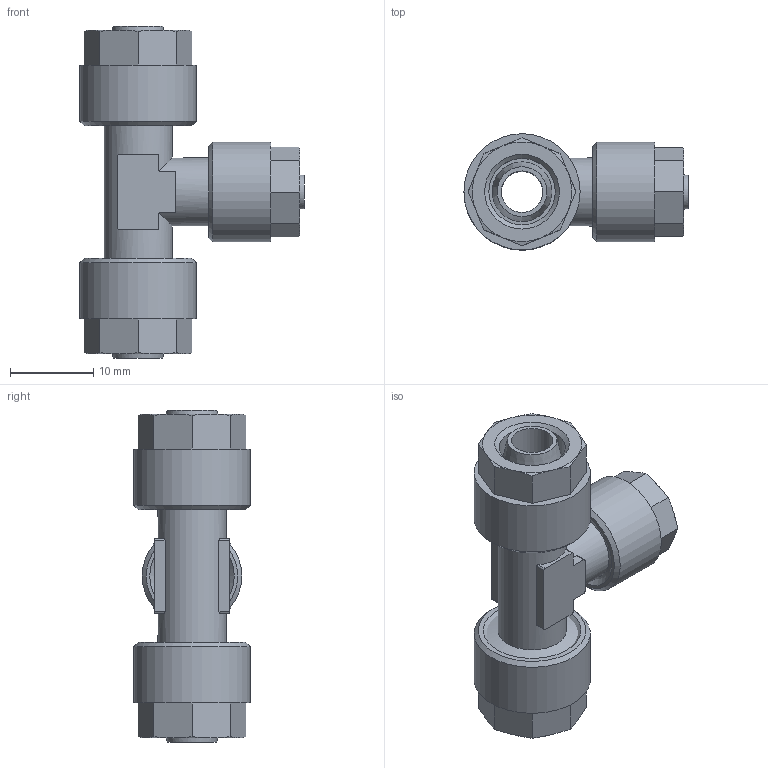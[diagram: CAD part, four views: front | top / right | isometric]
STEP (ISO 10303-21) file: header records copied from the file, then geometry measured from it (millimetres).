
FILE_DESCRIPTION(/* description */ (''),/* implementation_level */ '2;1');
FILE_NAME(/* name */ '12304_309_86_64_14.08.17',/* time_stamp */ '2017-08-14T14:42:24+02:00',/* author */ (''),/* organization */ (''),/* preprocessor_version */ 'ST-DEVELOPER v16.5',/* originating_system */ 'HiCAD 2016 2102.2 Build 618',/* authorisation */ '');
FILE_SCHEMA (('AUTOMOTIVE_DESIGN { 1 0 10303 214 1 1 1 1 }'));
Length unit declared in the file: millimetre
Products named in the file (5): Root; R12304; 17006; 17005
Assembly tree (4 placements, depth 2):
  Root
    R12304
    17006
    17006
    17005
Bounding box: 27 x 14 x 40 mm (x, y, z)
Volume: 4501 mm3; surface area: 5393.3 mm2
Topology: 4 solids, 4 shells, 143 faces, 347 edges, 223 vertices
Faces by surface type: plane 60, cone 45, cylinder 35, torus 3
Full cylindrical faces by diameter (mm): 3.2 x1, 4.8 x1, 5 x1, 6 x1, 6.8 x2, 8 x2, 8.2 x2, 8.773 x1, 10 x1, 10.773 x2, 12 x3, 14 x2
Entity records: 10144 total; most frequent: CARTESIAN_POINT 4130, DIRECTION 714, PRESENTATION_STYLE_ASSIGNMENT 564, COLOUR_RGB 561, DRAUGHTING_PRE_DEFINED_CURVE_FONT 560, CURVE_STYLE 560, OVER_RIDING_STYLED_ITEM 560, ORIENTED_EDGE 560
